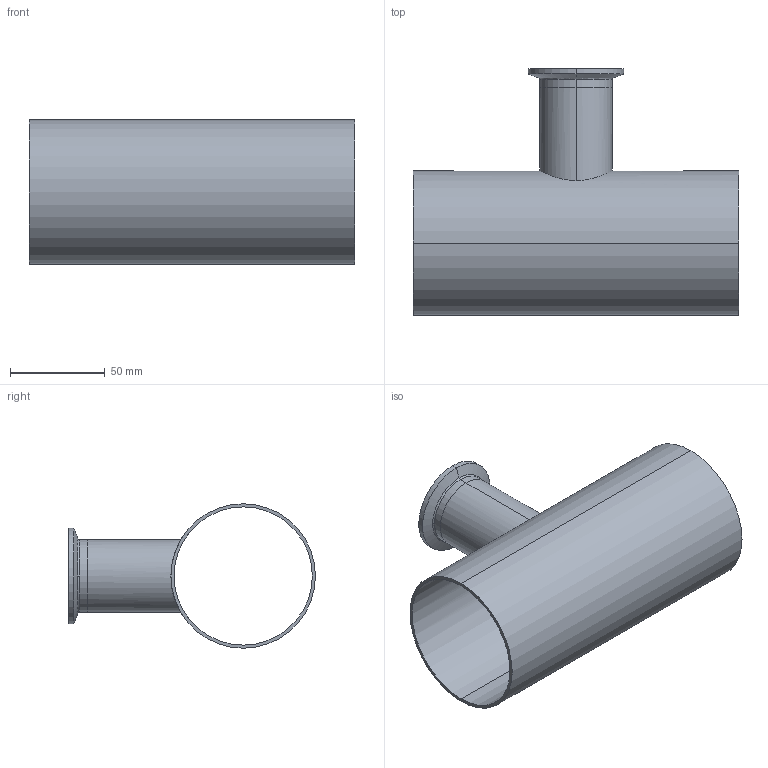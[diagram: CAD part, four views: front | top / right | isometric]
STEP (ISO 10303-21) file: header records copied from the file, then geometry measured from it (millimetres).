
FILE_DESCRIPTION (( 'STEP AP214' ), '1' );
FILE_NAME ('TE7RWWC6L3.0x1.5-...STEP', '2016-05-23T08:46:16', ( 'eran' ), ( '' ), 'SwSTEP 2.0', 'SolidWorks 2016', '' );
FILE_SCHEMA (( 'AUTOMOTIVE_DESIGN' ));
Length unit declared in the file: millimetre
Products named in the file (1): TE7RWWC6L3.0x1.5-..
Bounding box: 171.4 x 130.2 x 76.2 mm (x, y, z)
Volume: 78421.5 mm3; surface area: 94190.5 mm2
Topology: 2 solids, 2 shells, 36 faces, 88 edges, 58 vertices
Faces by surface type: cylinder 14, bspline 10, plane 6, cone 6
Entity records: 1978 total; most frequent: CARTESIAN_POINT 1073, DIRECTION 190, ORIENTED_EDGE 176, EDGE_CURVE 88, AXIS2_PLACEMENT_3D 85, CIRCLE 58, VERTEX_POINT 58, EDGE_LOOP 44
